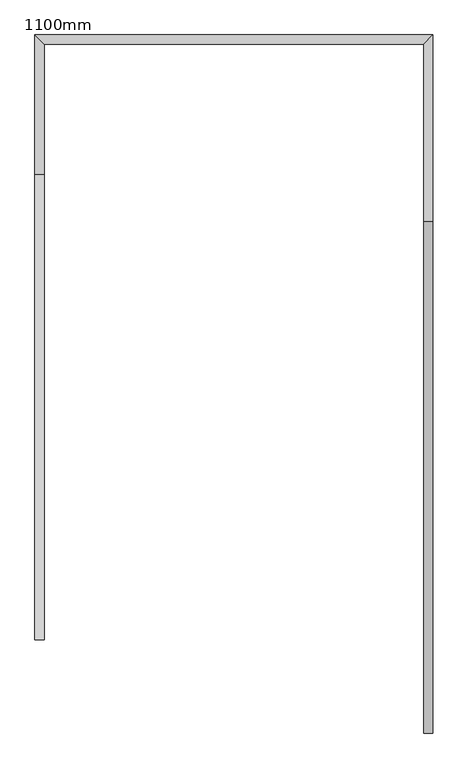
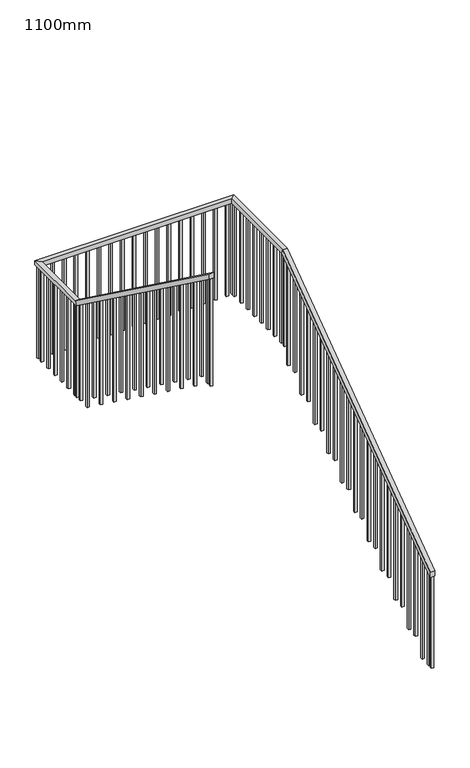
"""IFC4 building model written with IfcOpenShell, lengths in millimetres: railing geometry, 1100mm."""

from ifc_helpers import new_model, si_unit, frame, origin, place, context, project, spatial, polyline, outline, extrude, faceted_brep, source, transform, mapped, element, save


def railing_1100mm_07c990a1(model_context):
    return source(origin(), model_context, "Body", "SolidModel", [
        faceted_brep([(-9272.9693087, 2041.5551306, 1281.8181818), (-9272.9693087, 2041.5551306, 1219.9933159), (-9222.9693087, 2041.5551306, 1219.9933159), (-9222.9693087, 2041.5551306, 1281.8181818), (-9272.9693087, 4791.5551306, 3281.8181818), (-9272.9693087, 4807.8143213, 3231.8181818), (-9222.9693087, 4807.8143213, 3231.8181818), (-9222.9693087, 4791.5551306, 3281.8181818), (-9272.9693087, 5741.5551306, 3281.8181818), (-9272.9693087, 5741.5551306, 3231.8181818), (-9222.9693087, 5791.5551306, 3231.8181818), (-9222.9693087, 5791.5551306, 3281.8181818), (-11310.8244727, 5741.5551306, 3281.8181818), (-11310.8244727, 5741.5551306, 3231.8181818), (-11360.8244727, 5791.5551306, 3231.8181818), (-11360.8244727, 5791.5551306, 3281.8181818), (-11310.8244727, 5041.5551306, 3281.8181818), (-11310.8244727, 5025.2959399, 3231.8181818), (-11360.8244727, 5025.2959399, 3231.8181818), (-11360.8244727, 5041.5551306, 3281.8181818), (-11310.8244727, 2541.5551306, 5100.0), (-11360.8244727, 2541.5551306, 5100.0), (-11360.8244727, 2541.5551306, 5038.1751341), (-11310.8244727, 2541.5551306, 5038.1751341)], [[[0, 1, 2, 3]], [[1, 0, 4, 5]], [[2, 1, 5, 6]], [[3, 2, 6, 7]], [[0, 3, 7, 4]], [[5, 4, 8, 9]], [[6, 5, 9, 10]], [[7, 6, 10, 11]], [[4, 7, 11, 8]], [[9, 8, 12, 13]], [[10, 9, 13, 14]], [[11, 10, 14, 15]], [[8, 11, 15, 12]], [[13, 12, 16, 17]], [[14, 13, 17, 18]], [[15, 14, 18, 19]], [[12, 15, 19, 16]], [[20, 21, 22, 23]], [[17, 16, 20, 23]], [[18, 17, 23, 22]], [[19, 18, 22, 21]], [[16, 19, 21, 20]]]),
        extrude(outline(polyline([(2616.5551306, 3818.1818182), (2591.5551306, 3818.1818182), (2591.5551306, 5001.8114977), (2616.5551306, 4983.6296795), (2616.5551306, 3818.1818182)])), frame((-11348.3244727, 0.0, 0.0), z_axis=(1.0, 0.0, 0.0), x_axis=(0.0, 1.0, 0.0)), (0.0, 0.0, 1.0), 25.0),
        extrude(outline(polyline([(2741.5551306, 3818.1818182), (2716.5551306, 3818.1818182), (2716.5551306, 4910.9024068), (2741.5551306, 4892.7205886), (2741.5551306, 3818.1818182)])), frame((-11348.3244727, 0.0, 0.0), z_axis=(1.0, 0.0, 0.0), x_axis=(0.0, 1.0, 0.0)), (0.0, 0.0, 1.0), 25.0),
        extrude(outline(polyline([(2866.5551306, 3636.3636364), (2841.5551306, 3636.3636364), (2841.5551306, 4819.9933159), (2866.5551306, 4801.8114977), (2866.5551306, 3636.3636364)])), frame((-11348.3244727, 0.0, 0.0), z_axis=(1.0, 0.0, 0.0), x_axis=(0.0, 1.0, 0.0)), (0.0, 0.0, 1.0), 25.0),
        extrude(outline(polyline([(2991.5551306, 3636.3636364), (2966.5551306, 3636.3636364), (2966.5551306, 4729.084225), (2991.5551306, 4710.9024068), (2991.5551306, 3636.3636364)])), frame((-11348.3244727, 0.0, 0.0), z_axis=(1.0, 0.0, 0.0), x_axis=(0.0, 1.0, 0.0)), (0.0, 0.0, 1.0), 25.0),
        extrude(outline(polyline([(3116.5551306, 3454.5454545), (3091.5551306, 3454.5454545), (3091.5551306, 4638.1751341), (3116.5551306, 4619.9933159), (3116.5551306, 3454.5454545)])), frame((-11348.3244727, 0.0, 0.0), z_axis=(1.0, 0.0, 0.0), x_axis=(0.0, 1.0, 0.0)), (0.0, 0.0, 1.0), 25.0),
        extrude(outline(polyline([(3241.5551306, 3454.5454545), (3216.5551306, 3454.5454545), (3216.5551306, 4547.2660431), (3241.5551306, 4529.084225), (3241.5551306, 3454.5454545)])), frame((-11348.3244727, 0.0, 0.0), z_axis=(1.0, 0.0, 0.0), x_axis=(0.0, 1.0, 0.0)), (0.0, 0.0, 1.0), 25.0),
        extrude(outline(polyline([(3366.5551306, 3272.7272727), (3341.5551306, 3272.7272727), (3341.5551306, 4456.3569522), (3366.5551306, 4438.1751341), (3366.5551306, 3272.7272727)])), frame((-11348.3244727, 0.0, 0.0), z_axis=(1.0, 0.0, 0.0), x_axis=(0.0, 1.0, 0.0)), (0.0, 0.0, 1.0), 25.0),
        extrude(outline(polyline([(3491.5551306, 3272.7272727), (3466.5551306, 3272.7272727), (3466.5551306, 4365.4478613), (3491.5551306, 4347.2660431), (3491.5551306, 3272.7272727)])), frame((-11348.3244727, 0.0, 0.0), z_axis=(1.0, 0.0, 0.0), x_axis=(0.0, 1.0, 0.0)), (0.0, 0.0, 1.0), 25.0),
        extrude(outline(polyline([(3616.5551306, 3090.9090909), (3591.5551306, 3090.9090909), (3591.5551306, 4274.5387704), (3616.5551306, 4256.3569522), (3616.5551306, 3090.9090909)])), frame((-11348.3244727, 0.0, 0.0), z_axis=(1.0, 0.0, 0.0), x_axis=(0.0, 1.0, 0.0)), (0.0, 0.0, 1.0), 25.0),
        extrude(outline(polyline([(3741.5551306, 3090.9090909), (3716.5551306, 3090.9090909), (3716.5551306, 4183.6296795), (3741.5551306, 4165.4478613), (3741.5551306, 3090.9090909)])), frame((-11348.3244727, 0.0, 0.0), z_axis=(1.0, 0.0, 0.0), x_axis=(0.0, 1.0, 0.0)), (0.0, 0.0, 1.0), 25.0),
        extrude(outline(polyline([(3866.5551306, 2909.0909091), (3841.5551306, 2909.0909091), (3841.5551306, 4092.7205886), (3866.5551306, 4074.5387704), (3866.5551306, 2909.0909091)])), frame((-11348.3244727, 0.0, 0.0), z_axis=(1.0, 0.0, 0.0), x_axis=(0.0, 1.0, 0.0)), (0.0, 0.0, 1.0), 25.0),
        extrude(outline(polyline([(3991.5551306, 2909.0909091), (3966.5551306, 2909.0909091), (3966.5551306, 4001.8114977), (3991.5551306, 3983.6296795), (3991.5551306, 2909.0909091)])), frame((-11348.3244727, 0.0, 0.0), z_axis=(1.0, 0.0, 0.0), x_axis=(0.0, 1.0, 0.0)), (0.0, 0.0, 1.0), 25.0),
        extrude(outline(polyline([(4116.5551306, 2727.2727273), (4091.5551306, 2727.2727273), (4091.5551306, 3910.9024068), (4116.5551306, 3892.7205886), (4116.5551306, 2727.2727273)])), frame((-11348.3244727, 0.0, 0.0), z_axis=(1.0, 0.0, 0.0), x_axis=(0.0, 1.0, 0.0)), (0.0, 0.0, 1.0), 25.0),
        extrude(outline(polyline([(4241.5551306, 2727.2727273), (4216.5551306, 2727.2727273), (4216.5551306, 3819.9933159), (4241.5551306, 3801.8114977), (4241.5551306, 2727.2727273)])), frame((-11348.3244727, 0.0, 0.0), z_axis=(1.0, 0.0, 0.0), x_axis=(0.0, 1.0, 0.0)), (0.0, 0.0, 1.0), 25.0),
        extrude(outline(polyline([(4366.5551306, 2545.4545455), (4341.5551306, 2545.4545455), (4341.5551306, 3729.084225), (4366.5551306, 3710.9024068), (4366.5551306, 2545.4545455)])), frame((-11348.3244727, 0.0, 0.0), z_axis=(1.0, 0.0, 0.0), x_axis=(0.0, 1.0, 0.0)), (0.0, 0.0, 1.0), 25.0),
        extrude(outline(polyline([(4491.5551306, 2545.4545455), (4466.5551306, 2545.4545455), (4466.5551306, 3638.1751341), (4491.5551306, 3619.9933159), (4491.5551306, 2545.4545455)])), frame((-11348.3244727, 0.0, 0.0), z_axis=(1.0, 0.0, 0.0), x_axis=(0.0, 1.0, 0.0)), (0.0, 0.0, 1.0), 25.0),
        extrude(outline(polyline([(4616.5551306, 2363.6363636), (4591.5551306, 2363.6363636), (4591.5551306, 3547.2660431), (4616.5551306, 3529.084225), (4616.5551306, 2363.6363636)])), frame((-11348.3244727, 0.0, 0.0), z_axis=(1.0, 0.0, 0.0), x_axis=(0.0, 1.0, 0.0)), (0.0, 0.0, 1.0), 25.0),
        extrude(outline(polyline([(4741.5551306, 2363.6363636), (4716.5551306, 2363.6363636), (4716.5551306, 3456.3569522), (4741.5551306, 3438.1751341), (4741.5551306, 2363.6363636)])), frame((-11348.3244727, 0.0, 0.0), z_axis=(1.0, 0.0, 0.0), x_axis=(0.0, 1.0, 0.0)), (0.0, 0.0, 1.0), 25.0),
        extrude(outline(polyline([(4866.5551306, 2181.8181818), (4841.5551306, 2181.8181818), (4841.5551306, 3365.4478613), (4866.5551306, 3347.2660431), (4866.5551306, 2181.8181818)])), frame((-11348.3244727, 0.0, 0.0), z_axis=(1.0, 0.0, 0.0), x_axis=(0.0, 1.0, 0.0)), (0.0, 0.0, 1.0), 25.0),
        extrude(outline(polyline([(4991.5551306, 2181.8181818), (4966.5551306, 2181.8181818), (4966.5551306, 3274.5387704), (4991.5551306, 3256.3569522), (4991.5551306, 2181.8181818)])), frame((-11348.3244727, 0.0, 0.0), z_axis=(1.0, 0.0, 0.0), x_axis=(0.0, 1.0, 0.0)), (0.0, 0.0, 1.0), 25.0),
        extrude(outline(polyline([(-11323.3244727, 5091.5551306), (-11323.3244727, 5066.5551306), (-11348.3244727, 5066.5551306), (-11348.3244727, 5091.5551306), (-11323.3244727, 5091.5551306)])), frame((0.0, 0.0, 2181.8181818), z_axis=(0.0, 0.0, 1.0), x_axis=(1.0, 0.0, 0.0)), (0.0, 0.0, 1.0), 1050.0),
        extrude(outline(polyline([(-11323.3244727, 5216.5551306), (-11323.3244727, 5191.5551306), (-11348.3244727, 5191.5551306), (-11348.3244727, 5216.5551306), (-11323.3244727, 5216.5551306)])), frame((0.0, 0.0, 2181.8181818), z_axis=(0.0, 0.0, 1.0), x_axis=(1.0, 0.0, 0.0)), (0.0, 0.0, 1.0), 1050.0),
        extrude(outline(polyline([(-11323.3244727, 5341.5551306), (-11323.3244727, 5316.5551306), (-11348.3244727, 5316.5551306), (-11348.3244727, 5341.5551306), (-11323.3244727, 5341.5551306)])), frame((0.0, 0.0, 2181.8181818), z_axis=(0.0, 0.0, 1.0), x_axis=(1.0, 0.0, 0.0)), (0.0, 0.0, 1.0), 1050.0),
        extrude(outline(polyline([(-11323.3244727, 5466.5551306), (-11323.3244727, 5441.5551306), (-11348.3244727, 5441.5551306), (-11348.3244727, 5466.5551306), (-11323.3244727, 5466.5551306)])), frame((0.0, 0.0, 2181.8181818), z_axis=(0.0, 0.0, 1.0), x_axis=(1.0, 0.0, 0.0)), (0.0, 0.0, 1.0), 1050.0),
        extrude(outline(polyline([(-11323.3244727, 5591.5551306), (-11323.3244727, 5566.5551306), (-11348.3244727, 5566.5551306), (-11348.3244727, 5591.5551306), (-11323.3244727, 5591.5551306)])), frame((0.0, 0.0, 2181.8181818), z_axis=(0.0, 0.0, 1.0), x_axis=(1.0, 0.0, 0.0)), (0.0, 0.0, 1.0), 1050.0),
        extrude(outline(polyline([(-11323.3244727, 5716.5551306), (-11323.3244727, 5691.5551306), (-11348.3244727, 5691.5551306), (-11348.3244727, 5716.5551306), (-11323.3244727, 5716.5551306)])), frame((0.0, 0.0, 2181.8181818), z_axis=(0.0, 0.0, 1.0), x_axis=(1.0, 0.0, 0.0)), (0.0, 0.0, 1.0), 1050.0),
        extrude(outline(polyline([(-11297.9693087, 5754.0551306), (-11322.9693087, 5754.0551306), (-11322.9693087, 5779.0551306), (-11297.9693087, 5779.0551306), (-11297.9693087, 5754.0551306)])), frame((0.0, 0.0, 2181.8181818), z_axis=(0.0, 0.0, 1.0), x_axis=(1.0, 0.0, 0.0)), (0.0, 0.0, 1.0), 1050.0),
        extrude(outline(polyline([(-11172.9693087, 5754.0551306), (-11197.9693087, 5754.0551306), (-11197.9693087, 5779.0551306), (-11172.9693087, 5779.0551306), (-11172.9693087, 5754.0551306)])), frame((0.0, 0.0, 2181.8181818), z_axis=(0.0, 0.0, 1.0), x_axis=(1.0, 0.0, 0.0)), (0.0, 0.0, 1.0), 1050.0),
        extrude(outline(polyline([(-11047.9693087, 5754.0551306), (-11072.9693087, 5754.0551306), (-11072.9693087, 5779.0551306), (-11047.9693087, 5779.0551306), (-11047.9693087, 5754.0551306)])), frame((0.0, 0.0, 2181.8181818), z_axis=(0.0, 0.0, 1.0), x_axis=(1.0, 0.0, 0.0)), (0.0, 0.0, 1.0), 1050.0),
        extrude(outline(polyline([(-10922.9693087, 5754.0551306), (-10947.9693087, 5754.0551306), (-10947.9693087, 5779.0551306), (-10922.9693087, 5779.0551306), (-10922.9693087, 5754.0551306)])), frame((0.0, 0.0, 2181.8181818), z_axis=(0.0, 0.0, 1.0), x_axis=(1.0, 0.0, 0.0)), (0.0, 0.0, 1.0), 1050.0),
        extrude(outline(polyline([(-10797.9693087, 5754.0551306), (-10822.9693087, 5754.0551306), (-10822.9693087, 5779.0551306), (-10797.9693087, 5779.0551306), (-10797.9693087, 5754.0551306)])), frame((0.0, 0.0, 2181.8181818), z_axis=(0.0, 0.0, 1.0), x_axis=(1.0, 0.0, 0.0)), (0.0, 0.0, 1.0), 1050.0),
        extrude(outline(polyline([(-10672.9693087, 5754.0551306), (-10697.9693087, 5754.0551306), (-10697.9693087, 5779.0551306), (-10672.9693087, 5779.0551306), (-10672.9693087, 5754.0551306)])), frame((0.0, 0.0, 2181.8181818), z_axis=(0.0, 0.0, 1.0), x_axis=(1.0, 0.0, 0.0)), (0.0, 0.0, 1.0), 1050.0),
        extrude(outline(polyline([(-10547.9693087, 5754.0551306), (-10572.9693087, 5754.0551306), (-10572.9693087, 5779.0551306), (-10547.9693087, 5779.0551306), (-10547.9693087, 5754.0551306)])), frame((0.0, 0.0, 2181.8181818), z_axis=(0.0, 0.0, 1.0), x_axis=(1.0, 0.0, 0.0)), (0.0, 0.0, 1.0), 1050.0),
        extrude(outline(polyline([(-10422.9693087, 5754.0551306), (-10447.9693087, 5754.0551306), (-10447.9693087, 5779.0551306), (-10422.9693087, 5779.0551306), (-10422.9693087, 5754.0551306)])), frame((0.0, 0.0, 2181.8181818), z_axis=(0.0, 0.0, 1.0), x_axis=(1.0, 0.0, 0.0)), (0.0, 0.0, 1.0), 1050.0),
        extrude(outline(polyline([(-10297.9693087, 5754.0551306), (-10322.9693087, 5754.0551306), (-10322.9693087, 5779.0551306), (-10297.9693087, 5779.0551306), (-10297.9693087, 5754.0551306)])), frame((0.0, 0.0, 2181.8181818), z_axis=(0.0, 0.0, 1.0), x_axis=(1.0, 0.0, 0.0)), (0.0, 0.0, 1.0), 1050.0),
        extrude(outline(polyline([(-10172.9693087, 5754.0551306), (-10197.9693087, 5754.0551306), (-10197.9693087, 5779.0551306), (-10172.9693087, 5779.0551306), (-10172.9693087, 5754.0551306)])), frame((0.0, 0.0, 2181.8181818), z_axis=(0.0, 0.0, 1.0), x_axis=(1.0, 0.0, 0.0)), (0.0, 0.0, 1.0), 1050.0),
        extrude(outline(polyline([(-10047.9693087, 5754.0551306), (-10072.9693087, 5754.0551306), (-10072.9693087, 5779.0551306), (-10047.9693087, 5779.0551306), (-10047.9693087, 5754.0551306)])), frame((0.0, 0.0, 2181.8181818), z_axis=(0.0, 0.0, 1.0), x_axis=(1.0, 0.0, 0.0)), (0.0, 0.0, 1.0), 1050.0),
        extrude(outline(polyline([(-9922.9693087, 5754.0551306), (-9947.9693087, 5754.0551306), (-9947.9693087, 5779.0551306), (-9922.9693087, 5779.0551306), (-9922.9693087, 5754.0551306)])), frame((0.0, 0.0, 2181.8181818), z_axis=(0.0, 0.0, 1.0), x_axis=(1.0, 0.0, 0.0)), (0.0, 0.0, 1.0), 1050.0),
        extrude(outline(polyline([(-9797.9693087, 5754.0551306), (-9822.9693087, 5754.0551306), (-9822.9693087, 5779.0551306), (-9797.9693087, 5779.0551306), (-9797.9693087, 5754.0551306)])), frame((0.0, 0.0, 2181.8181818), z_axis=(0.0, 0.0, 1.0), x_axis=(1.0, 0.0, 0.0)), (0.0, 0.0, 1.0), 1050.0),
        extrude(outline(polyline([(-9672.9693087, 5754.0551306), (-9697.9693087, 5754.0551306), (-9697.9693087, 5779.0551306), (-9672.9693087, 5779.0551306), (-9672.9693087, 5754.0551306)])), frame((0.0, 0.0, 2181.8181818), z_axis=(0.0, 0.0, 1.0), x_axis=(1.0, 0.0, 0.0)), (0.0, 0.0, 1.0), 1050.0),
        extrude(outline(polyline([(-9547.9693087, 5754.0551306), (-9572.9693087, 5754.0551306), (-9572.9693087, 5779.0551306), (-9547.9693087, 5779.0551306), (-9547.9693087, 5754.0551306)])), frame((0.0, 0.0, 2181.8181818), z_axis=(0.0, 0.0, 1.0), x_axis=(1.0, 0.0, 0.0)), (0.0, 0.0, 1.0), 1050.0),
        extrude(outline(polyline([(-9422.9693087, 5754.0551306), (-9447.9693087, 5754.0551306), (-9447.9693087, 5779.0551306), (-9422.9693087, 5779.0551306), (-9422.9693087, 5754.0551306)])), frame((0.0, 0.0, 2181.8181818), z_axis=(0.0, 0.0, 1.0), x_axis=(1.0, 0.0, 0.0)), (0.0, 0.0, 1.0), 1050.0),
        extrude(outline(polyline([(-9297.9693087, 5754.0551306), (-9322.9693087, 5754.0551306), (-9322.9693087, 5779.0551306), (-9297.9693087, 5779.0551306), (-9297.9693087, 5754.0551306)])), frame((0.0, 0.0, 2181.8181818), z_axis=(0.0, 0.0, 1.0), x_axis=(1.0, 0.0, 0.0)), (0.0, 0.0, 1.0), 1050.0),
        extrude(outline(polyline([(-9260.4693087, 5716.5551306), (-9260.4693087, 5741.5551306), (-9235.4693087, 5741.5551306), (-9235.4693087, 5716.5551306), (-9260.4693087, 5716.5551306)])), frame((0.0, 0.0, 2181.8181818), z_axis=(0.0, 0.0, 1.0), x_axis=(1.0, 0.0, 0.0)), (0.0, 0.0, 1.0), 1050.0),
        extrude(outline(polyline([(-9260.4693087, 5591.5551306), (-9260.4693087, 5616.5551306), (-9235.4693087, 5616.5551306), (-9235.4693087, 5591.5551306), (-9260.4693087, 5591.5551306)])), frame((0.0, 0.0, 2181.8181818), z_axis=(0.0, 0.0, 1.0), x_axis=(1.0, 0.0, 0.0)), (0.0, 0.0, 1.0), 1050.0),
        extrude(outline(polyline([(-9260.4693087, 5466.5551306), (-9260.4693087, 5491.5551306), (-9235.4693087, 5491.5551306), (-9235.4693087, 5466.5551306), (-9260.4693087, 5466.5551306)])), frame((0.0, 0.0, 2181.8181818), z_axis=(0.0, 0.0, 1.0), x_axis=(1.0, 0.0, 0.0)), (0.0, 0.0, 1.0), 1050.0),
        extrude(outline(polyline([(-9260.4693087, 5341.5551306), (-9260.4693087, 5366.5551306), (-9235.4693087, 5366.5551306), (-9235.4693087, 5341.5551306), (-9260.4693087, 5341.5551306)])), frame((0.0, 0.0, 2181.8181818), z_axis=(0.0, 0.0, 1.0), x_axis=(1.0, 0.0, 0.0)), (0.0, 0.0, 1.0), 1050.0),
        extrude(outline(polyline([(-9260.4693087, 5216.5551306), (-9260.4693087, 5241.5551306), (-9235.4693087, 5241.5551306), (-9235.4693087, 5216.5551306), (-9260.4693087, 5216.5551306)])), frame((0.0, 0.0, 2181.8181818), z_axis=(0.0, 0.0, 1.0), x_axis=(1.0, 0.0, 0.0)), (0.0, 0.0, 1.0), 1050.0),
        extrude(outline(polyline([(-9260.4693087, 5091.5551306), (-9260.4693087, 5116.5551306), (-9235.4693087, 5116.5551306), (-9235.4693087, 5091.5551306), (-9260.4693087, 5091.5551306)])), frame((0.0, 0.0, 2181.8181818), z_axis=(0.0, 0.0, 1.0), x_axis=(1.0, 0.0, 0.0)), (0.0, 0.0, 1.0), 1050.0),
        extrude(outline(polyline([(-9260.4693087, 4966.5551306), (-9260.4693087, 4991.5551306), (-9235.4693087, 4991.5551306), (-9235.4693087, 4966.5551306), (-9260.4693087, 4966.5551306)])), frame((0.0, 0.0, 2181.8181818), z_axis=(0.0, 0.0, 1.0), x_axis=(1.0, 0.0, 0.0)), (0.0, 0.0, 1.0), 1050.0),
        extrude(outline(polyline([(-9260.4693087, 4841.5551306), (-9260.4693087, 4866.5551306), (-9235.4693087, 4866.5551306), (-9235.4693087, 4841.5551306), (-9260.4693087, 4841.5551306)])), frame((0.0, 0.0, 2181.8181818), z_axis=(0.0, 0.0, 1.0), x_axis=(1.0, 0.0, 0.0)), (0.0, 0.0, 1.0), 1050.0),
        extrude(outline(polyline([(4716.5551306, 3165.4478613), (4741.5551306, 3183.6296795), (4741.5551306, 2000.0), (4716.5551306, 2000.0), (4716.5551306, 3165.4478613)])), frame((-9260.4693087, 0.0, 0.0), z_axis=(1.0, 0.0, 0.0), x_axis=(0.0, 1.0, 0.0)), (0.0, 0.0, 1.0), 25.0),
        extrude(outline(polyline([(4591.5551306, 3074.5387704), (4616.5551306, 3092.7205886), (4616.5551306, 2000.0), (4591.5551306, 2000.0), (4591.5551306, 3074.5387704)])), frame((-9260.4693087, 0.0, 0.0), z_axis=(1.0, 0.0, 0.0), x_axis=(0.0, 1.0, 0.0)), (0.0, 0.0, 1.0), 25.0),
        extrude(outline(polyline([(4466.5551306, 2983.6296795), (4491.5551306, 3001.8114977), (4491.5551306, 1818.1818182), (4466.5551306, 1818.1818182), (4466.5551306, 2983.6296795)])), frame((-9260.4693087, 0.0, 0.0), z_axis=(1.0, 0.0, 0.0), x_axis=(0.0, 1.0, 0.0)), (0.0, 0.0, 1.0), 25.0),
        extrude(outline(polyline([(4341.5551306, 2892.7205886), (4366.5551306, 2910.9024068), (4366.5551306, 1818.1818182), (4341.5551306, 1818.1818182), (4341.5551306, 2892.7205886)])), frame((-9260.4693087, 0.0, 0.0), z_axis=(1.0, 0.0, 0.0), x_axis=(0.0, 1.0, 0.0)), (0.0, 0.0, 1.0), 25.0),
        extrude(outline(polyline([(4216.5551306, 2801.8114977), (4241.5551306, 2819.9933159), (4241.5551306, 1636.3636364), (4216.5551306, 1636.3636364), (4216.5551306, 2801.8114977)])), frame((-9260.4693087, 0.0, 0.0), z_axis=(1.0, 0.0, 0.0), x_axis=(0.0, 1.0, 0.0)), (0.0, 0.0, 1.0), 25.0),
        extrude(outline(polyline([(4091.5551306, 2710.9024068), (4116.5551306, 2729.084225), (4116.5551306, 1636.3636364), (4091.5551306, 1636.3636364), (4091.5551306, 2710.9024068)])), frame((-9260.4693087, 0.0, 0.0), z_axis=(1.0, 0.0, 0.0), x_axis=(0.0, 1.0, 0.0)), (0.0, 0.0, 1.0), 25.0),
        extrude(outline(polyline([(3966.5551306, 2619.9933159), (3991.5551306, 2638.1751341), (3991.5551306, 1454.5454545), (3966.5551306, 1454.5454545), (3966.5551306, 2619.9933159)])), frame((-9260.4693087, 0.0, 0.0), z_axis=(1.0, 0.0, 0.0), x_axis=(0.0, 1.0, 0.0)), (0.0, 0.0, 1.0), 25.0),
        extrude(outline(polyline([(3841.5551306, 2529.084225), (3866.5551306, 2547.2660431), (3866.5551306, 1454.5454545), (3841.5551306, 1454.5454545), (3841.5551306, 2529.084225)])), frame((-9260.4693087, 0.0, 0.0), z_axis=(1.0, 0.0, 0.0), x_axis=(0.0, 1.0, 0.0)), (0.0, 0.0, 1.0), 25.0),
        extrude(outline(polyline([(3716.5551306, 2438.1751341), (3741.5551306, 2456.3569522), (3741.5551306, 1272.7272727), (3716.5551306, 1272.7272727), (3716.5551306, 2438.1751341)])), frame((-9260.4693087, 0.0, 0.0), z_axis=(1.0, 0.0, 0.0), x_axis=(0.0, 1.0, 0.0)), (0.0, 0.0, 1.0), 25.0),
        extrude(outline(polyline([(3591.5551306, 2347.2660431), (3616.5551306, 2365.4478613), (3616.5551306, 1272.7272727), (3591.5551306, 1272.7272727), (3591.5551306, 2347.2660431)])), frame((-9260.4693087, 0.0, 0.0), z_axis=(1.0, 0.0, 0.0), x_axis=(0.0, 1.0, 0.0)), (0.0, 0.0, 1.0), 25.0),
        extrude(outline(polyline([(3466.5551306, 2256.3569522), (3491.5551306, 2274.5387704), (3491.5551306, 1090.9090909), (3466.5551306, 1090.9090909), (3466.5551306, 2256.3569522)])), frame((-9260.4693087, 0.0, 0.0), z_axis=(1.0, 0.0, 0.0), x_axis=(0.0, 1.0, 0.0)), (0.0, 0.0, 1.0), 25.0),
        extrude(outline(polyline([(3341.5551306, 2165.4478613), (3366.5551306, 2183.6296795), (3366.5551306, 1090.9090909), (3341.5551306, 1090.9090909), (3341.5551306, 2165.4478613)])), frame((-9260.4693087, 0.0, 0.0), z_axis=(1.0, 0.0, 0.0), x_axis=(0.0, 1.0, 0.0)), (0.0, 0.0, 1.0), 25.0),
        extrude(outline(polyline([(3216.5551306, 2074.5387704), (3241.5551306, 2092.7205886), (3241.5551306, 909.0909091), (3216.5551306, 909.0909091), (3216.5551306, 2074.5387704)])), frame((-9260.4693087, 0.0, 0.0), z_axis=(1.0, 0.0, 0.0), x_axis=(0.0, 1.0, 0.0)), (0.0, 0.0, 1.0), 25.0),
        extrude(outline(polyline([(3091.5551306, 1983.6296795), (3116.5551306, 2001.8114977), (3116.5551306, 909.0909091), (3091.5551306, 909.0909091), (3091.5551306, 1983.6296795)])), frame((-9260.4693087, 0.0, 0.0), z_axis=(1.0, 0.0, 0.0), x_axis=(0.0, 1.0, 0.0)), (0.0, 0.0, 1.0), 25.0),
        extrude(outline(polyline([(2966.5551306, 1892.7205886), (2991.5551306, 1910.9024068), (2991.5551306, 727.2727273), (2966.5551306, 727.2727273), (2966.5551306, 1892.7205886)])), frame((-9260.4693087, 0.0, 0.0), z_axis=(1.0, 0.0, 0.0), x_axis=(0.0, 1.0, 0.0)), (0.0, 0.0, 1.0), 25.0),
        extrude(outline(polyline([(2841.5551306, 1801.8114977), (2866.5551306, 1819.9933159), (2866.5551306, 727.2727273), (2841.5551306, 727.2727273), (2841.5551306, 1801.8114977)])), frame((-9260.4693087, 0.0, 0.0), z_axis=(1.0, 0.0, 0.0), x_axis=(0.0, 1.0, 0.0)), (0.0, 0.0, 1.0), 25.0),
        extrude(outline(polyline([(2716.5551306, 1710.9024068), (2741.5551306, 1729.084225), (2741.5551306, 545.4545455), (2716.5551306, 545.4545455), (2716.5551306, 1710.9024068)])), frame((-9260.4693087, 0.0, 0.0), z_axis=(1.0, 0.0, 0.0), x_axis=(0.0, 1.0, 0.0)), (0.0, 0.0, 1.0), 25.0),
        extrude(outline(polyline([(2591.5551306, 1619.9933159), (2616.5551306, 1638.1751341), (2616.5551306, 545.4545455), (2591.5551306, 545.4545455), (2591.5551306, 1619.9933159)])), frame((-9260.4693087, 0.0, 0.0), z_axis=(1.0, 0.0, 0.0), x_axis=(0.0, 1.0, 0.0)), (0.0, 0.0, 1.0), 25.0),
        extrude(outline(polyline([(2466.5551306, 1529.084225), (2491.5551306, 1547.2660431), (2491.5551306, 363.6363636), (2466.5551306, 363.6363636), (2466.5551306, 1529.084225)])), frame((-9260.4693087, 0.0, 0.0), z_axis=(1.0, 0.0, 0.0), x_axis=(0.0, 1.0, 0.0)), (0.0, 0.0, 1.0), 25.0),
        extrude(outline(polyline([(2341.5551306, 1438.1751341), (2366.5551306, 1456.3569522), (2366.5551306, 363.6363636), (2341.5551306, 363.6363636), (2341.5551306, 1438.1751341)])), frame((-9260.4693087, 0.0, 0.0), z_axis=(1.0, 0.0, 0.0), x_axis=(0.0, 1.0, 0.0)), (0.0, 0.0, 1.0), 25.0),
        extrude(outline(polyline([(2216.5551306, 1347.2660431), (2241.5551306, 1365.4478613), (2241.5551306, 181.8181818), (2216.5551306, 181.8181818), (2216.5551306, 1347.2660431)])), frame((-9260.4693087, 0.0, 0.0), z_axis=(1.0, 0.0, 0.0), x_axis=(0.0, 1.0, 0.0)), (0.0, 0.0, 1.0), 25.0),
        extrude(outline(polyline([(2091.5551306, 1256.3569522), (2116.5551306, 1274.5387704), (2116.5551306, 181.8181818), (2091.5551306, 181.8181818), (2091.5551306, 1256.3569522)])), frame((-9260.4693087, 0.0, 0.0), z_axis=(1.0, 0.0, 0.0), x_axis=(0.0, 1.0, 0.0)), (0.0, 0.0, 1.0), 25.0),
        extrude(outline(polyline([(-11323.3244727, 5054.0551306), (-11323.3244727, 5029.0551306), (-11348.3244727, 5029.0551306), (-11348.3244727, 5054.0551306), (-11323.3244727, 5054.0551306)])), frame((0.0, 0.0, 2181.8181818), z_axis=(0.0, 0.0, 1.0), x_axis=(1.0, 0.0, 0.0)), (0.0, 0.0, 1.0), 1050.0),
        extrude(outline(polyline([(-11323.3244727, 5754.0551306), (-11348.3244727, 5754.0551306), (-11348.3244727, 5779.0551306), (-11323.3244727, 5779.0551306), (-11323.3244727, 5754.0551306)])), frame((0.0, 0.0, 2181.8181818), z_axis=(0.0, 0.0, 1.0), x_axis=(1.0, 0.0, 0.0)), (0.0, 0.0, 1.0), 1050.0),
        extrude(outline(polyline([(-9260.4693087, 5754.0551306), (-9260.4693087, 5779.0551306), (-9235.4693087, 5779.0551306), (-9235.4693087, 5754.0551306), (-9260.4693087, 5754.0551306)])), frame((0.0, 0.0, 2181.8181818), z_axis=(0.0, 0.0, 1.0), x_axis=(1.0, 0.0, 0.0)), (0.0, 0.0, 1.0), 1050.0),
        extrude(outline(polyline([(4779.0551306, 3210.9024068), (4804.0551306, 3229.084225), (4804.0551306, 2181.8181818), (4779.0551306, 2181.8181818), (4779.0551306, 3210.9024068)])), frame((-9260.4693087, 0.0, 0.0), z_axis=(1.0, 0.0, 0.0), x_axis=(0.0, 1.0, 0.0)), (0.0, 0.0, 1.0), 25.0),
        extrude(outline(polyline([(2566.5551306, 3818.1818182), (2541.5551306, 3818.1818182), (2541.5551306, 5038.1751341), (2566.5551306, 5019.9933159), (2566.5551306, 3818.1818182)])), frame((-11348.3244727, 0.0, 0.0), z_axis=(1.0, 0.0, 0.0), x_axis=(0.0, 1.0, 0.0)), (0.0, 0.0, 1.0), 25.0),
        extrude(outline(polyline([(2041.5551306, 1219.9933159), (2066.5551306, 1238.1751341), (2066.5551306, 181.8181818), (2041.5551306, 181.8181818), (2041.5551306, 1219.9933159)])), frame((-9260.4693087, 0.0, 0.0), z_axis=(1.0, 0.0, 0.0), x_axis=(0.0, 1.0, 0.0)), (0.0, 0.0, 1.0), 25.0),
    ])


if __name__ == "__main__":
    model = new_model("IFC4")
    model_context = context("Model", 3, world=origin())
    ifc_project = project(units=[si_unit("LENGTHUNIT", "METRE", prefix="MILLI")], contexts=[model_context])
    site = spatial("IfcSite", under=ifc_project)
    building = spatial("IfcBuilding", under=site)
    placement = place(None, origin())
    railing_1100mm_shape = railing_1100mm_07c990a1(model_context)
    element("IfcRailing", 1, ObjectType="1100mm", at=placement, inside=building, context=model_context, shape_type="MappedRepresentation", body=[
        mapped(railing_1100mm_shape, transform((0.0, 0.0, 0.0), x_axis=(1.0, 0.0, 0.0), y_axis=(0.0, 1.0, 0.0), z_axis=(0.0, 0.0, 1.0))),
    ])
    save(model, "model.ifc")
